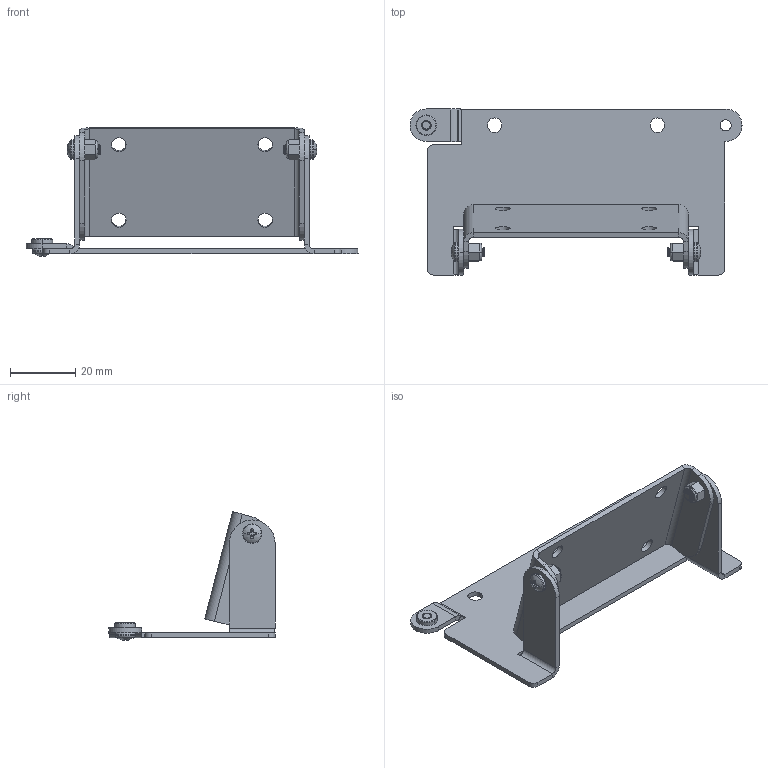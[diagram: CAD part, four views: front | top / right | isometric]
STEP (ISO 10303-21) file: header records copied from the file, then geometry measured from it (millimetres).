
FILE_DESCRIPTION (( 'STEP AP214' ), '1' );
FILE_NAME ('BKT0026_R3.step', '2018-05-03T12:21:47', ( '' ), ( '' ), 'SwSTEP 2.0', 'SolidWorks 2018', '' );
FILE_SCHEMA (( 'AUTOMOTIVE_DESIGN' ));
Length unit declared in the file: millimetre
Products named in the file (7): PEM-M3-0ZI; BRKT-00564-03-R1; 90576A102_ZINC-PLATED CLASS 8 STL NYLON-INSERT LOCKNUT_90576A102; BKT0026_R3; 92005A111_METRIC PAN HEAD PHILLIPS MACHINE SCREW_92005A111; 92005A118_METRIC PAN HEAD PHILLIPS MACHINE SCREW_92005A118; BRKT-00564-04-R1_R2
Assembly tree (8 placements, depth 2):
  BKT0026_R3
    BRKT-00564-03-R1
    BRKT-00564-04-R1_R2
    92005A111_METRIC PAN HEAD PHILLIPS MACHINE SCREW_92005A111
    PEM-M3-0ZI
    92005A118_METRIC PAN HEAD PHILLIPS MACHINE SCREW_92005A118  x2
    90576A102_ZINC-PLATED CLASS 8 STL NYLON-INSERT LOCKNUT_90576A102  x2
Bounding box: 102 x 51 x 39.5 mm (x, y, z)
Volume: 11643.9 mm3; surface area: 17339.1 mm2
Topology: 10 solids, 10 shells, 631 faces, 1604 edges, 1002 vertices
Faces by surface type: cylinder 324, plane 142, cone 126, torus 24, bspline 9, sphere 6
Entity records: 15451 total; most frequent: CARTESIAN_POINT 5740, ORIENTED_EDGE 2096, DIRECTION 1870, EDGE_CURVE 1048, AXIS2_PLACEMENT_3D 727, VERTEX_POINT 655, EDGE_LOOP 449, LINE 416
